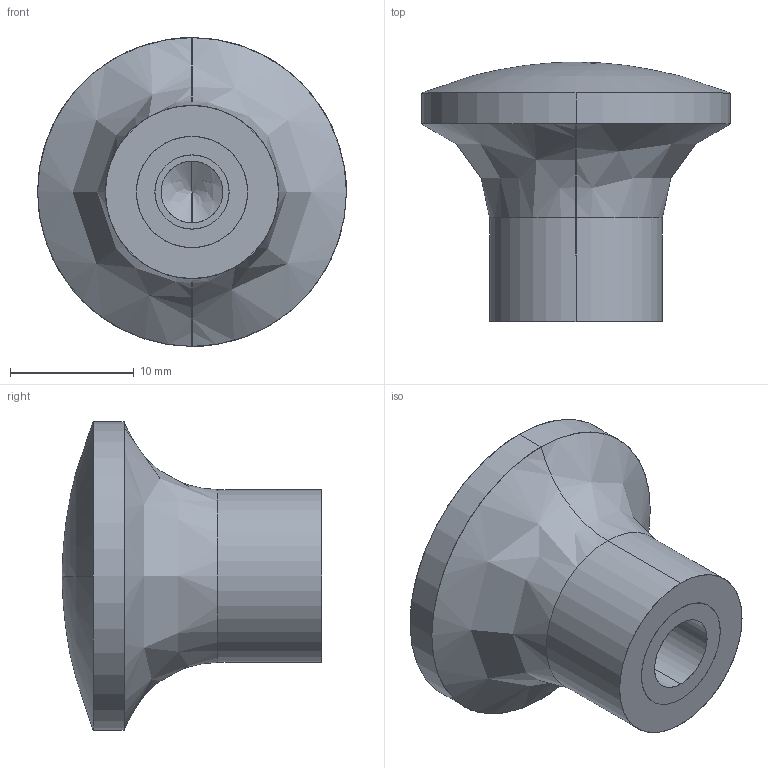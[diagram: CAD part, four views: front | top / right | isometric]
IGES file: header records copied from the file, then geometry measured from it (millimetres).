
Start section: SolidWorks IGES file using analytic representation for surfaces
Global section: file name: C:\Users\IanO\Desktop\Temp File\Process pending\73200_v2\73200_v2_20171103_IGES\73200.W0025.igs; native system: SolidWorks 2017; preprocessor: SolidWorks 2017; author: IanO; date: 171103.111726; units: millimetre
Bounding box: 25 x 21 x 25 mm (x, y, z)
Surface area: 2941.6 mm2 (no closed solid volume)
Topology: 0 solids, 0 shells, 37 faces, 572 edges, 565 vertices
Faces by surface type: revolution 28, bspline 9
